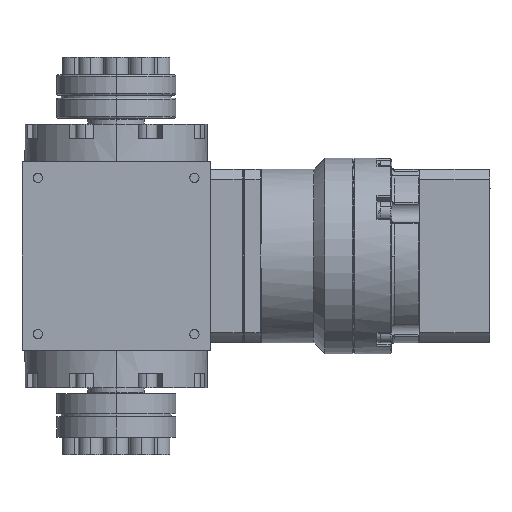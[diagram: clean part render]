
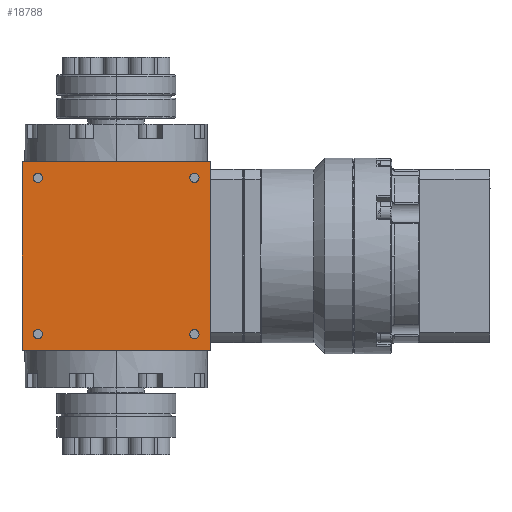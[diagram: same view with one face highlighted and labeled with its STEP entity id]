
A CAD part, left-side view. The second image highlights one B-rep face of the part: STEP entity #18788.
In plain terms, the highlighted planar face has unit normal (-1, 0, 0).
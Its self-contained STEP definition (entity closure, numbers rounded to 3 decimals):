
#1163 = DIRECTION ( 'NONE',  ( 1., 0., 0. ) ) ;
#1730 = CIRCLE ( 'NONE', #44521, 1.6 ) ;
#1941 = DIRECTION ( 'NONE',  ( 1., 0., 0. ) ) ;
#2001 = CARTESIAN_POINT ( 'NONE',  ( -32.5, 27., 25.4 ) ) ;
#2629 = CARTESIAN_POINT ( 'NONE',  ( -32.5, -27., 25.4 ) ) ;
#2971 = FACE_BOUND ( 'NONE', #21882, .T. ) ;
#3144 = CIRCLE ( 'NONE', #30879, 1.6 ) ;
#3769 = EDGE_LOOP ( 'NONE', ( #43791, #24379, #25658, #38787 ) ) ;
#4237 = EDGE_CURVE ( 'NONE', #38564, #38719, #1730, .T. ) ;
#5512 = LINE ( 'NONE', #43738, #14957 ) ;
#5582 = ORIENTED_EDGE ( 'NONE', *, *, #14538, .T. ) ;
#5766 = CARTESIAN_POINT ( 'NONE',  ( -32.5, 27., -25.4 ) ) ;
#6189 = CARTESIAN_POINT ( 'NONE',  ( -32.5, 27., -28.6 ) ) ;
#6676 = DIRECTION ( 'NONE',  ( 1., 0., 0. ) ) ;
#6968 = DIRECTION ( 'NONE',  ( 0., 0., 1. ) ) ;
#7050 = CIRCLE ( 'NONE', #18934, 1.6 ) ;
#8027 = AXIS2_PLACEMENT_3D ( 'NONE', #21827, #25300, #47671 ) ;
#8333 = AXIS2_PLACEMENT_3D ( 'NONE', #40119, #20970, #35897 ) ;
#9757 = VERTEX_POINT ( 'NONE', #6189 ) ;
#10054 = LINE ( 'NONE', #21208, #43932 ) ;
#10154 = FACE_BOUND ( 'NONE', #12897, .T. ) ;
#10727 = CARTESIAN_POINT ( 'NONE',  ( -32.5, -27., -27. ) ) ;
#12333 = DIRECTION ( 'NONE',  ( 0., 0., 1. ) ) ;
#12897 = EDGE_LOOP ( 'NONE', ( #5582, #25388 ) ) ;
#13584 = CIRCLE ( 'NONE', #32614, 1.6 ) ;
#13803 = EDGE_CURVE ( 'NONE', #45019, #25063, #5512, .T. ) ;
#14538 = EDGE_CURVE ( 'NONE', #30760, #47341, #3144, .T. ) ;
#14703 = CARTESIAN_POINT ( 'NONE',  ( -32.5, 32.5, -32.5 ) ) ;
#14957 = VECTOR ( 'NONE', #47954, 1000. ) ;
#16048 = DIRECTION ( 'NONE',  ( 1., 0., 0. ) ) ;
#16961 = EDGE_CURVE ( 'NONE', #17445, #26628, #19554, .T. ) ;
#17236 = EDGE_LOOP ( 'NONE', ( #31897, #37933 ) ) ;
#17445 = VERTEX_POINT ( 'NONE', #38528 ) ;
#18788 = ADVANCED_FACE ( 'NONE', ( #21321, #32784, #10154, #29550, #2971 ), #36501, .T. ) ;
#18934 = AXIS2_PLACEMENT_3D ( 'NONE', #40205, #6676, #25269 ) ;
#19338 = ORIENTED_EDGE ( 'NONE', *, *, #43736, .T. ) ;
#19554 = LINE ( 'NONE', #30984, #33405 ) ;
#19994 = DIRECTION ( 'NONE',  ( 0., 0., 1. ) ) ;
#20171 = CIRCLE ( 'NONE', #26526, 1.6 ) ;
#20297 = EDGE_CURVE ( 'NONE', #17445, #45019, #25869, .T. ) ;
#20970 = DIRECTION ( 'NONE',  ( 1., 0., 0. ) ) ;
#21208 = CARTESIAN_POINT ( 'NONE',  ( -32.5, -32.5, -32.5 ) ) ;
#21321 = FACE_OUTER_BOUND ( 'NONE', #3769, .T. ) ;
#21827 = CARTESIAN_POINT ( 'NONE',  ( -32.5, 32.5, -32.5 ) ) ;
#21882 = EDGE_LOOP ( 'NONE', ( #45012, #24181 ) ) ;
#22842 = VECTOR ( 'NONE', #29852, 1000. ) ;
#22969 = EDGE_CURVE ( 'NONE', #47341, #30760, #7050, .T. ) ;
#23233 = CARTESIAN_POINT ( 'NONE',  ( -32.5, -27., -27. ) ) ;
#24181 = ORIENTED_EDGE ( 'NONE', *, *, #42753, .T. ) ;
#24379 = ORIENTED_EDGE ( 'NONE', *, *, #16961, .T. ) ;
#25059 = EDGE_CURVE ( 'NONE', #28055, #9757, #37278, .T. ) ;
#25063 = VERTEX_POINT ( 'NONE', #42624 ) ;
#25269 = DIRECTION ( 'NONE',  ( 0., 0., 1. ) ) ;
#25300 = DIRECTION ( 'NONE',  ( -1., 0., 0. ) ) ;
#25388 = ORIENTED_EDGE ( 'NONE', *, *, #22969, .T. ) ;
#25658 = ORIENTED_EDGE ( 'NONE', *, *, #26376, .T. ) ;
#25869 = LINE ( 'NONE', #14703, #22842 ) ;
#26376 = EDGE_CURVE ( 'NONE', #26628, #25063, #10054, .T. ) ;
#26526 = AXIS2_PLACEMENT_3D ( 'NONE', #23233, #1163, #19994 ) ;
#26628 = VERTEX_POINT ( 'NONE', #45794 ) ;
#28055 = VERTEX_POINT ( 'NONE', #5766 ) ;
#28487 = CARTESIAN_POINT ( 'NONE',  ( -32.5, 27., 28.6 ) ) ;
#29550 = FACE_BOUND ( 'NONE', #17236, .T. ) ;
#29852 = DIRECTION ( 'NONE',  ( 0., 0., 1. ) ) ;
#30760 = VERTEX_POINT ( 'NONE', #39997 ) ;
#30879 = AXIS2_PLACEMENT_3D ( 'NONE', #43164, #1941, #43631 ) ;
#30969 = VERTEX_POINT ( 'NONE', #28487 ) ;
#30984 = CARTESIAN_POINT ( 'NONE',  ( -32.5, 0., -32.5 ) ) ;
#31458 = CARTESIAN_POINT ( 'NONE',  ( -32.5, 27., 27. ) ) ;
#31897 = ORIENTED_EDGE ( 'NONE', *, *, #42589, .T. ) ;
#32015 = ORIENTED_EDGE ( 'NONE', *, *, #32983, .T. ) ;
#32614 = AXIS2_PLACEMENT_3D ( 'NONE', #31458, #40152, #47579 ) ;
#32784 = FACE_BOUND ( 'NONE', #44018, .T. ) ;
#32983 = EDGE_CURVE ( 'NONE', #39474, #30969, #13584, .T. ) ;
#33405 = VECTOR ( 'NONE', #46618, 1000. ) ;
#35298 = CIRCLE ( 'NONE', #8333, 1.6 ) ;
#35897 = DIRECTION ( 'NONE',  ( 0., 0., 1. ) ) ;
#36159 = CIRCLE ( 'NONE', #37726, 1.6 ) ;
#36389 = DIRECTION ( 'NONE',  ( 0., 0., 1. ) ) ;
#36501 = PLANE ( 'NONE',  #8027 ) ;
#37278 = CIRCLE ( 'NONE', #38882, 1.6 ) ;
#37726 = AXIS2_PLACEMENT_3D ( 'NONE', #44072, #43825, #47783 ) ;
#37767 = CARTESIAN_POINT ( 'NONE',  ( -32.5, -27., -28.6 ) ) ;
#37933 = ORIENTED_EDGE ( 'NONE', *, *, #4237, .T. ) ;
#38010 = CARTESIAN_POINT ( 'NONE',  ( -32.5, -27., -25.4 ) ) ;
#38528 = CARTESIAN_POINT ( 'NONE',  ( -32.5, 32.5, -32.5 ) ) ;
#38564 = VERTEX_POINT ( 'NONE', #37767 ) ;
#38719 = VERTEX_POINT ( 'NONE', #38010 ) ;
#38787 = ORIENTED_EDGE ( 'NONE', *, *, #13803, .F. ) ;
#38882 = AXIS2_PLACEMENT_3D ( 'NONE', #38901, #16048, #12333 ) ;
#38901 = CARTESIAN_POINT ( 'NONE',  ( -32.5, 27., -27. ) ) ;
#39474 = VERTEX_POINT ( 'NONE', #2001 ) ;
#39997 = CARTESIAN_POINT ( 'NONE',  ( -32.5, -27., 28.6 ) ) ;
#40119 = CARTESIAN_POINT ( 'NONE',  ( -32.5, 27., -27. ) ) ;
#40152 = DIRECTION ( 'NONE',  ( 1., 0., 0. ) ) ;
#40205 = CARTESIAN_POINT ( 'NONE',  ( -32.5, -27., 27. ) ) ;
#41769 = DIRECTION ( 'NONE',  ( 1., 0., 0. ) ) ;
#42589 = EDGE_CURVE ( 'NONE', #38719, #38564, #20171, .T. ) ;
#42624 = CARTESIAN_POINT ( 'NONE',  ( -32.5, -32.5, 32.5 ) ) ;
#42753 = EDGE_CURVE ( 'NONE', #9757, #28055, #35298, .T. ) ;
#43164 = CARTESIAN_POINT ( 'NONE',  ( -32.5, -27., 27. ) ) ;
#43631 = DIRECTION ( 'NONE',  ( 0., 0., 1. ) ) ;
#43736 = EDGE_CURVE ( 'NONE', #30969, #39474, #36159, .T. ) ;
#43738 = CARTESIAN_POINT ( 'NONE',  ( -32.5, 0., 32.5 ) ) ;
#43791 = ORIENTED_EDGE ( 'NONE', *, *, #20297, .F. ) ;
#43825 = DIRECTION ( 'NONE',  ( 1., 0., 0. ) ) ;
#43932 = VECTOR ( 'NONE', #36389, 1000. ) ;
#44018 = EDGE_LOOP ( 'NONE', ( #19338, #32015 ) ) ;
#44072 = CARTESIAN_POINT ( 'NONE',  ( -32.5, 27., 27. ) ) ;
#44521 = AXIS2_PLACEMENT_3D ( 'NONE', #10727, #41769, #6968 ) ;
#45012 = ORIENTED_EDGE ( 'NONE', *, *, #25059, .T. ) ;
#45019 = VERTEX_POINT ( 'NONE', #48593 ) ;
#45794 = CARTESIAN_POINT ( 'NONE',  ( -32.5, -32.5, -32.5 ) ) ;
#46618 = DIRECTION ( 'NONE',  ( 0., -1., 0. ) ) ;
#47341 = VERTEX_POINT ( 'NONE', #2629 ) ;
#47579 = DIRECTION ( 'NONE',  ( 0., 0., 1. ) ) ;
#47671 = DIRECTION ( 'NONE',  ( 0., -1., 0. ) ) ;
#47783 = DIRECTION ( 'NONE',  ( 0., 0., 1. ) ) ;
#47954 = DIRECTION ( 'NONE',  ( 0., -1., 0. ) ) ;
#48593 = CARTESIAN_POINT ( 'NONE',  ( -32.5, 32.5, 32.5 ) ) ;
